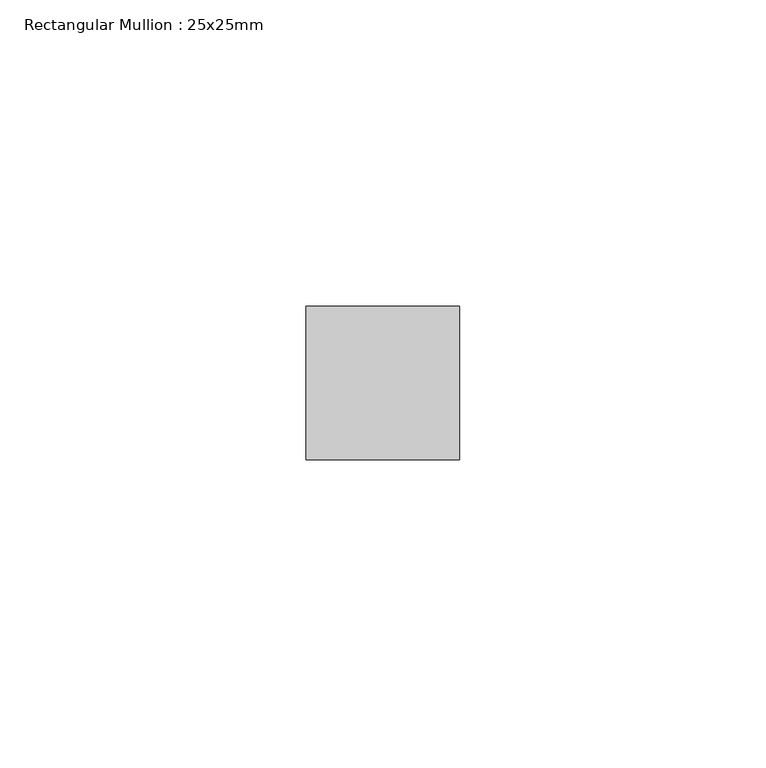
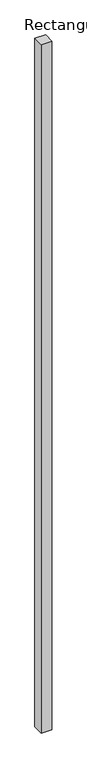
"""IFC4 building model written with IfcOpenShell, lengths in millimetres: member geometry, Rectangular Mullion : 25x25mm."""

from ifc_helpers import new_model, si_unit, frame, origin, place, context, project, spatial, polyline, outline, extrude, source, transform, mapped, element, save


def rectangular_mullion_25x25mm_46c97505(model_context):
    return source(origin(), model_context, "Body", "SweptSolid", [
        extrude(outline(polyline([(12.5, 24.5), (12.5, -0.5), (-12.5, -0.5), (-12.5, 24.5), (12.5, 24.5)])), frame((0.0, 0.0, -1690.0), z_axis=(0.0, 0.0, 1.0), x_axis=(1.0, 0.0, 0.0)), (0.0, 0.0, 1.0), 1690.0),
    ])


if __name__ == "__main__":
    model = new_model("IFC4")
    model_context = context("Model", 3, world=origin())
    ifc_project = project(units=[si_unit("LENGTHUNIT", "METRE", prefix="MILLI")], contexts=[model_context])
    site = spatial("IfcSite", under=ifc_project)
    building = spatial("IfcBuilding", under=site)
    placement = place(None, origin())
    rectangular_mullion_25x25mm_shape = rectangular_mullion_25x25mm_46c97505(model_context)
    element("IfcMember", 1, ObjectType="Rectangular Mullion : 25x25mm", at=placement, inside=building, context=model_context, shape_type="MappedRepresentation", body=[
        mapped(rectangular_mullion_25x25mm_shape, transform((0.0, 0.0, 0.0), x_axis=(1.0, 0.0, 0.0), y_axis=(0.0, 1.0, 0.0), z_axis=(0.0, 0.0, 1.0))),
    ])
    save(model, "model.ifc")
